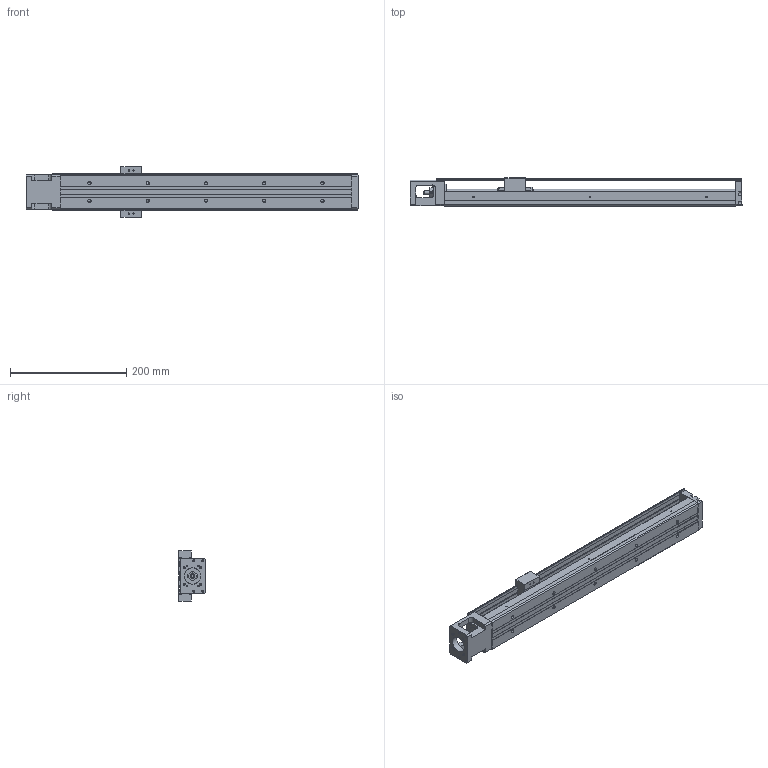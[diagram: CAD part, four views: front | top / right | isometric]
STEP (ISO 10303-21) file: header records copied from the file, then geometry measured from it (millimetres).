
FILE_DESCRIPTION(/* description */ (''),/* implementation_level */ '2;1');
FILE_NAME(/* name */ 'KP33S-500-C.stp',/* time_stamp */ '2020-06-04T18:03:52+08:00',/* author */ (''),/* organization */ (''),/* preprocessor_version */ 'ST-DEVELOPER v14',/* originating_system */ 'SIEMENS PLM Software NX 8.0',/* authorisation */ '');
FILE_SCHEMA (('AUTOMOTIVE_DESIGN { 1 0 10303 214 3 1 1 1 }'));
Length unit declared in the file: millimetre
Products named in the file (1): model1
Bounding box: 570 x 47.95 x 86 mm (x, y, z)
Volume: 697073.4 mm3; surface area: 251802.7 mm2
Topology: 7 solids, 16 shells, 716 faces, 1825 edges, 1205 vertices
Faces by surface type: plane 426, cylinder 205, bspline 31, cone 22, extrusion 21, torus 9, revolution 2
Full cylindrical faces by diameter (mm): 1.6 x3, 1.65 x4, 2.15 x7, 2.42 x4, 2.45 x8, 2.5 x16, 3.2 x4, 3.3 x4, 3.4 x4, 3.5 x10, 3.969 x1, 4 x4, 4.001 x1, 4.135 x2, 4.2 x2, 5.5 x10, 6 x5, 7.6 x1, 8 x5, 9.5 x10, 10.72 x3, 11.8 x2, 12 x6, 12.8 x1, 13 x2, 14 x1, 17.38 x3, 21.5 x1, 22 x2, 28 x1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
Entity records: 36764 total; most frequent: CARTESIAN_POINT 16604, DIRECTION 3260, ORIENTED_EDGE 3170, EDGE_CURVE 1585, AXIS2_PLACEMENT_3D 1145, VERTEX_POINT 1125, EDGE_LOOP 1014, VECTOR 968
